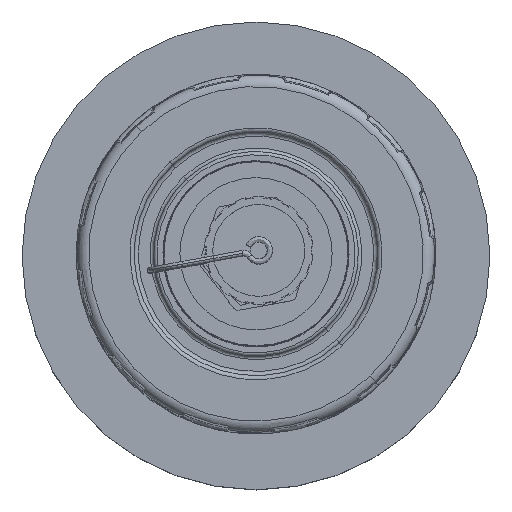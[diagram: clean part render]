
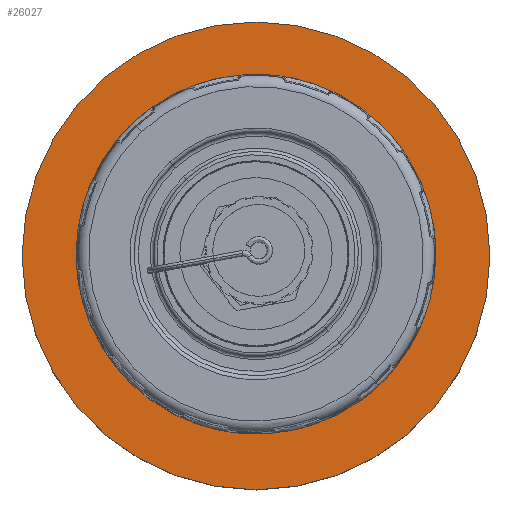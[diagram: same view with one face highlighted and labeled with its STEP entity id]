
A CAD part, top view. The second image highlights one B-rep face of the part: STEP entity #26027.
In plain terms, the highlighted planar face has unit normal (0, 0, 1).
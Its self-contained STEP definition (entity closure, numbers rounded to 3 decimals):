
#243 = FACE_OUTER_BOUND ( 'NONE', #60353, .T. ) ;
#515 = CIRCLE ( 'NONE', #49168, 42.25 ) ;
#2534 = PLANE ( 'NONE',  #65145 ) ;
#2873 = EDGE_CURVE ( 'NONE', #3567, #31108, #10567, .T. ) ;
#2958 = DIRECTION ( 'NONE',  ( 0., 0., 1. ) ) ;
#3567 = VERTEX_POINT ( 'NONE', #57511 ) ;
#7714 = DIRECTION ( 'NONE',  ( 0., 0., 1. ) ) ;
#8747 = AXIS2_PLACEMENT_3D ( 'NONE', #13065, #49380, #18281 ) ;
#9731 = CARTESIAN_POINT ( 'NONE',  ( -42.25, 0., -179. ) ) ;
#10567 = CIRCLE ( 'NONE', #67058, 30. ) ;
#13065 = CARTESIAN_POINT ( 'NONE',  ( 0., 0., -179. ) ) ;
#14072 = CARTESIAN_POINT ( 'NONE',  ( 0., 0., -179. ) ) ;
#18281 = DIRECTION ( 'NONE',  ( 1., 0., 0. ) ) ;
#19280 = DIRECTION ( 'NONE',  ( 1., 0., 0. ) ) ;
#19646 = ORIENTED_EDGE ( 'NONE', *, *, #51773, .F. ) ;
#21942 = CIRCLE ( 'NONE', #56058, 30. ) ;
#25244 = ORIENTED_EDGE ( 'NONE', *, *, #41835, .F. ) ;
#26027 = ADVANCED_FACE ( 'NONE', ( #57053, #243 ), #2534, .T. ) ;
#27732 = DIRECTION ( 'NONE',  ( 0., 0., -1. ) ) ;
#28185 = CARTESIAN_POINT ( 'NONE',  ( -30., 0., -179. ) ) ;
#31108 = VERTEX_POINT ( 'NONE', #28185 ) ;
#34108 = CARTESIAN_POINT ( 'NONE',  ( 0., 0., -179. ) ) ;
#36626 = VERTEX_POINT ( 'NONE', #37847 ) ;
#37279 = CIRCLE ( 'NONE', #8747, 42.25 ) ;
#37847 = CARTESIAN_POINT ( 'NONE',  ( 42.25, 0., -179. ) ) ;
#39315 = DIRECTION ( 'NONE',  ( 1., 0., 0. ) ) ;
#41835 = EDGE_CURVE ( 'NONE', #63948, #36626, #515, .T. ) ;
#42142 = ORIENTED_EDGE ( 'NONE', *, *, #2873, .F. ) ;
#43109 = EDGE_LOOP ( 'NONE', ( #57985, #42142 ) ) ;
#44067 = DIRECTION ( 'NONE',  ( 0., -1., 0. ) ) ;
#49168 = AXIS2_PLACEMENT_3D ( 'NONE', #58780, #27732, #63989 ) ;
#49380 = DIRECTION ( 'NONE',  ( 0., 0., -1. ) ) ;
#50121 = EDGE_CURVE ( 'NONE', #31108, #3567, #21942, .T. ) ;
#50389 = DIRECTION ( 'NONE',  ( 0., 0., 1. ) ) ;
#51773 = EDGE_CURVE ( 'NONE', #36626, #63948, #37279, .T. ) ;
#56058 = AXIS2_PLACEMENT_3D ( 'NONE', #14072, #50389, #19280 ) ;
#57053 = FACE_BOUND ( 'NONE', #43109, .T. ) ;
#57511 = CARTESIAN_POINT ( 'NONE',  ( 30., 0., -179. ) ) ;
#57985 = ORIENTED_EDGE ( 'NONE', *, *, #50121, .F. ) ;
#58780 = CARTESIAN_POINT ( 'NONE',  ( 0., 0., -179. ) ) ;
#60353 = EDGE_LOOP ( 'NONE', ( #25244, #19646 ) ) ;
#63948 = VERTEX_POINT ( 'NONE', #9731 ) ;
#63989 = DIRECTION ( 'NONE',  ( 1., 0., 0. ) ) ;
#64452 = CARTESIAN_POINT ( 'NONE',  ( 0., 0., -179. ) ) ;
#65145 = AXIS2_PLACEMENT_3D ( 'NONE', #64452, #7714, #44067 ) ;
#67058 = AXIS2_PLACEMENT_3D ( 'NONE', #34108, #2958, #39315 ) ;
